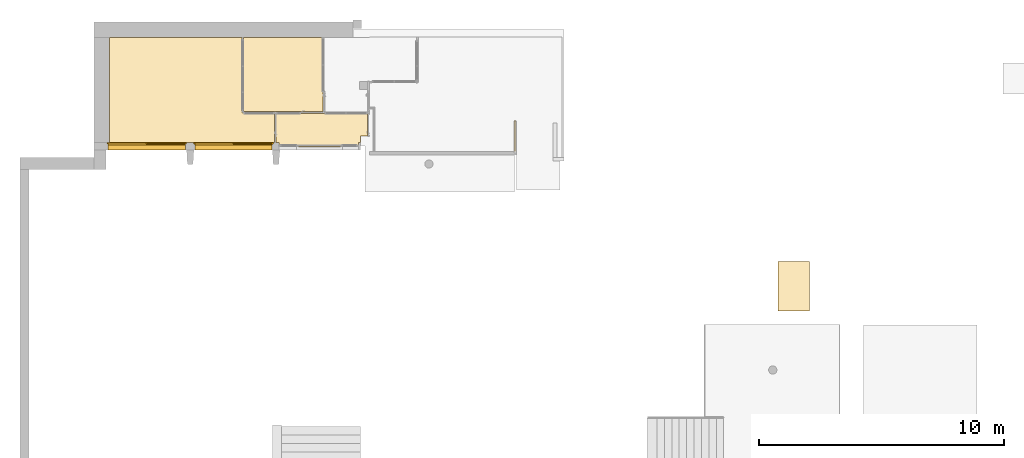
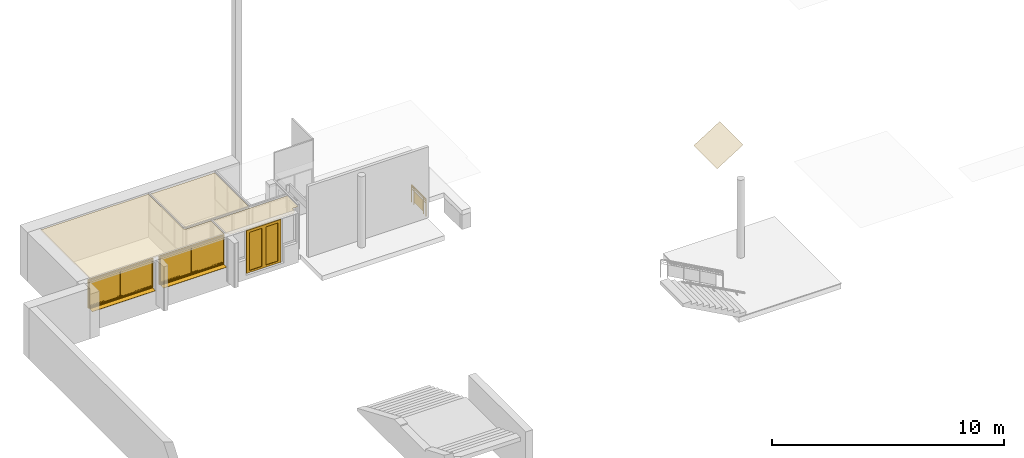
# One storey, part 16 of 19: 4 coverings, 2 windows, 1 door, 1 railing, 1 element without a shape of its own.
"""IFC4 building model written with IfcOpenShell, lengths in metres."""

from ifc_helpers import new_model, entity, si_unit, converted_unit, derived_unit, direction, frame, origin, place, context, subcontext, project, spatial, indexed_curve, outline, extrude, polygons, source, transform, mapped, material, material_list, layer, layer_set, constituent, constituent_set, type_object, type_shapes, element, aggregate, save


model = new_model("IFC4")

# Units and contexts
model_context = context("Model", 3, precision=1e-05, world=origin(), true_north=direction((6.12303176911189e-17, 1.0)))
body_context = subcontext(model_context, "Body", "Model", "MODEL_VIEW")
ifc_project = project(units=[si_unit("LENGTHUNIT", "METRE"), si_unit("AREAUNIT", "SQUARE_METRE"), si_unit("VOLUMEUNIT", "CUBIC_METRE"), converted_unit("PLANEANGLEUNIT", "DEGREE", entity("IfcRatioMeasure", 0.0174532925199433), si_unit("PLANEANGLEUNIT", "RADIAN"), dimensions=[0, 0, 0, 0, 0, 0, 0]), si_unit("MASSUNIT", "GRAM", prefix="KILO"), derived_unit("MASSDENSITYUNIT", [(si_unit("MASSUNIT", "GRAM", prefix="KILO"), 1), (si_unit("LENGTHUNIT", "METRE"), -3)]), derived_unit("MOMENTOFINERTIAUNIT", [(si_unit("LENGTHUNIT", "METRE"), 4)]), si_unit("TIMEUNIT", "SECOND"), si_unit("FREQUENCYUNIT", "HERTZ"), si_unit("THERMODYNAMICTEMPERATUREUNIT", "DEGREE_CELSIUS"), derived_unit("THERMALTRANSMITTANCEUNIT", [(si_unit("MASSUNIT", "GRAM", prefix="KILO"), 1), (si_unit("THERMODYNAMICTEMPERATUREUNIT", "KELVIN"), -1), (si_unit("TIMEUNIT", "SECOND"), -3)]), derived_unit("VOLUMETRICFLOWRATEUNIT", [(si_unit("LENGTHUNIT", "METRE"), 3), (si_unit("TIMEUNIT", "SECOND"), -1)]), si_unit("ELECTRICCURRENTUNIT", "AMPERE"), si_unit("ELECTRICVOLTAGEUNIT", "VOLT"), si_unit("POWERUNIT", "WATT"), si_unit("FORCEUNIT", "NEWTON", prefix="KILO"), si_unit("ILLUMINANCEUNIT", "LUX"), si_unit("LUMINOUSFLUXUNIT", "LUMEN"), si_unit("LUMINOUSINTENSITYUNIT", "CANDELA"), derived_unit("USERDEFINED", [(si_unit("MASSUNIT", "GRAM", prefix="KILO"), -1), (si_unit("LENGTHUNIT", "METRE"), -2), (si_unit("TIMEUNIT", "SECOND"), 3), (si_unit("LUMINOUSFLUXUNIT", "LUMEN"), 1)]), derived_unit("LINEARVELOCITYUNIT", [(si_unit("LENGTHUNIT", "METRE"), 1), (si_unit("TIMEUNIT", "SECOND"), -1)]), si_unit("PRESSUREUNIT", "PASCAL"), derived_unit("USERDEFINED", [(si_unit("LENGTHUNIT", "METRE"), -2), (si_unit("MASSUNIT", "GRAM", prefix="KILO"), 1), (si_unit("TIMEUNIT", "SECOND"), -2)]), derived_unit("LINEARFORCEUNIT", [(si_unit("MASSUNIT", "GRAM", prefix="KILO"), 1), (si_unit("LENGTHUNIT", "METRE"), 1), (si_unit("TIMEUNIT", "SECOND"), -2), (si_unit("LENGTHUNIT", "METRE"), -1)]), derived_unit("PLANARFORCEUNIT", [(si_unit("MASSUNIT", "GRAM", prefix="KILO"), 1), (si_unit("LENGTHUNIT", "METRE"), 1), (si_unit("TIMEUNIT", "SECOND"), -2), (si_unit("LENGTHUNIT", "METRE"), -2)])], contexts=[model_context])

# Site, building, storey
site_placement = place(None, origin())
site = spatial("IfcSite", under=ifc_project, at=site_placement, Name="Default", CompositionType="ELEMENT")
building_placement = place(site_placement, origin())
building = spatial("IfcBuilding", under=site, at=building_placement, Name="HOTEL CONSULAIRE BOULOGNE SUR MER", CompositionType="ELEMENT")
storey_placement = place(building_placement, frame((0.0, 0.0, -4.01003075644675)))
storey = spatial("IfcBuildingStorey", under=building, at=storey_placement, Name="SS2", CompositionType="ELEMENT", Elevation=-4.01003075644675)

# Curtain wall, door
curtain_wall_type = type_object("IfcCurtainWallType", Name="Mur-rideau:Simple panneau", PredefinedType="NOTDEFINED")
curtain_wall_placement = place(storey_placement, frame((0.0, 0.0, 4.01003075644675)))
curtain_wall = element("IfcCurtainWall", 1, at=curtain_wall_placement, inside=storey, type_object=curtain_wall_type, Name="Mur-rideau:Simple panneau", ObjectType="Mur-rideau:Simple panneau", PredefinedType="NOTDEFINED")
ifc_material_1 = material(Name="PVC, souple", Category="Plastique")
ifc_constituent_1 = constituent(ifc_material_1, Name="PVC, souple", Category="Matériaux")
ifc_material_2 = material(Name="Verre", Category="Verre")
ifc_constituent_2 = constituent(ifc_material_2, Name="Verre", Category="Matériaux")
ifc_constituent_set_1 = constituent_set(constituents=[ifc_constituent_1, ifc_constituent_2], Name="MaterialConstituentSet")
ifc_material_list_1 = material_list([ifc_material_1, ifc_material_1, ifc_material_1])
door_type = type_object("IfcDoorType", Name="Double vitrée1:Double vitrée1", OperationType="SWING_FIXED_RIGHT", PredefinedType="DOOR", material=ifc_material_list_1)
shared_shape_1 = source(origin(), body_context, "Body", "SweptSolid", [
    extrude(outline(indexed_curve([(0.80499682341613, -1.1175), (0.85499682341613, -1.1175), (0.854996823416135, 1.1425), (-0.85499682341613, 1.1425), (-0.854996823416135, -1.1175), (-0.804996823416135, -1.1175), (-0.80499682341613, 1.0925), (0.804996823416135, 1.0925), (0.80499682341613, -1.1175)], self_intersect=False)), frame((0.0, -0.0449999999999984, 1.1175), z_axis=(0.0, 1.0, 0.0), x_axis=(-1.0, 0.0, 0.0)), (0.0, 0.0, 1.0), 0.0699999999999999),
    extrude(outline(indexed_curve([(-0.302498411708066, -0.005), (0.302498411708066, -0.005), (0.302498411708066, 0.005), (-0.302498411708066, 0.005), (-0.302498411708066, -0.005)], self_intersect=False)), frame((0.402498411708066, -0.00999999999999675, 0.1), z_axis=(0.0, 0.0, 1.0), x_axis=(-1.0, 0.0, 0.0)), (0.0, 0.0, 1.0), 2.01),
    extrude(outline(indexed_curve([(-0.402498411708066, -1.105), (0.402498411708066, -1.105), (0.402498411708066, 1.105), (-0.402498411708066, 1.105), (-0.402498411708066, -1.105)], self_intersect=False), holes=[indexed_curve([(-0.302498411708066, 1.005), (0.302498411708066, 1.005), (0.302498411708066, -1.005), (-0.302498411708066, -1.005), (-0.302498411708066, 1.005)], self_intersect=False)]), frame((0.402498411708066, -0.0349999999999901, 1.105), z_axis=(0.0, 1.0, 0.0), x_axis=(-1.0, 0.0, 0.0)), (0.0, 0.0, 1.0), 0.05),
    extrude(outline(indexed_curve([(-0.302498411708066, -0.005), (0.302498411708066, -0.005), (0.302498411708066, 0.005), (-0.302498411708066, 0.005), (-0.302498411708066, -0.005)], self_intersect=False)), frame((-0.402498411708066, -0.00999999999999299, 0.1), z_axis=(0.0, 0.0, 1.0), x_axis=(-1.0, 0.0, 0.0)), (0.0, 0.0, 1.0), 2.01),
    extrude(outline(indexed_curve([(-1.105, -0.402498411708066), (1.105, -0.402498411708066), (1.105, 0.402498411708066), (-1.105, 0.402498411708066), (-1.105, -0.402498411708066)], self_intersect=False), holes=[indexed_curve([(-1.005, -0.302498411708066), (-1.005, 0.302498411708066), (1.005, 0.302498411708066), (1.005, -0.302498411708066), (-1.005, -0.302498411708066)], self_intersect=False)]), frame((-0.402498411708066, -0.0349999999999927, 1.105), z_axis=(0.0, 1.0, 0.0), x_axis=(0.0, 0.0, -1.0)), (0.0, 0.0, 1.0), 0.05),
])
type_shapes(door_type, [shared_shape_1])
door_placement = place(curtain_wall_placement, frame((-15.5093465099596, -14.8875756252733, -4.03003075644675)))
door = element("IfcDoor", 2, at=door_placement, type_object=door_type, material=ifc_constituent_set_1, Name="Double vitrée1:Double vitrée1", ObjectType="Double vitrée1:Double vitrée1", OperationType="SWING_FIXED_RIGHT", OverallHeight=2.26, OverallWidth=1.70999364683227, PredefinedType="DOOR", context=body_context, shape_type="MappedRepresentation", body=[
    mapped(shared_shape_1, transform((0.0, 0.0, 0.0), scale=1.0)),
])
aggregate(curtain_wall, [door])

# Windows
ifc_constituent_3 = constituent(ifc_material_1, Name="PVC, souple", Category="Matériaux")
ifc_material_3 = material(Name="Fenêtre - Vitrage", Category="Verre")
ifc_constituent_4 = constituent(ifc_material_3, Name="Fenêtre - Vitrage", Category="Matériaux")
ifc_constituent_set_2 = constituent_set(constituents=[ifc_constituent_3, ifc_constituent_4], Name="MaterialConstituentSet")
ifc_material_list_2 = material_list([ifc_material_1, ifc_material_1, ifc_material_1, ifc_material_1, ifc_material_3])
window_type = type_object("IfcWindowType", Name="2 Vantaux coulissants - Droits:1.45x3.15 pvc", PartitioningType="NOTDEFINED", PredefinedType="WINDOW", material=ifc_material_list_2)
shared_shape_2 = source(origin(), body_context, "Body", "Tessellation", [
    polygons([(0.0900000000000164, 0.362468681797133, 0.624909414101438), (0.0875313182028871, 0.360000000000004, 0.624909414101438), (0.0709522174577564, 0.360000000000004, 0.624909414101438), (0.0709522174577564, 0.365000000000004, 0.624909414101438), (0.0800000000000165, 0.365000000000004, 0.624909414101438), (0.0800000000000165, 0.380000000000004, 0.624909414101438), (0.0900000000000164, 0.380000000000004, 0.624909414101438), (0.0900000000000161, 0.362468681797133, 0.724909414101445), (0.0900000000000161, 0.380000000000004, 0.724909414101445), (0.0800000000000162, 0.380000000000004, 0.724909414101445), (0.0800000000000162, 0.365000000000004, 0.724909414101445), (0.0709522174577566, 0.365000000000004, 0.724909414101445), (0.0709522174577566, 0.360000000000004, 0.724909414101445), (0.0875313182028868, 0.360000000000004, 0.724909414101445), (0.0667433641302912, 0.365000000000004, 0.626652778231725), (0.0650000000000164, 0.365000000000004, 0.630861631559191), (0.0650000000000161, 0.365000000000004, 0.718957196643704), (0.0667433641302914, 0.365000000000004, 0.723166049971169), (0.0650000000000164, 0.360000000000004, 0.630861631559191), (0.0650000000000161, 0.360000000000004, 0.718957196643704), (0.0667433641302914, 0.360000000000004, 0.723166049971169), (0.0667433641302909, 0.360000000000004, 0.626652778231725)], [[[2, 3, 4, 5, 6, 7, 1]], [[10, 11, 12, 13, 14, 8, 9]], [[8, 1, 7, 9]], [[9, 7, 6, 10]], [[16, 17, 18, 12, 11, 5, 4, 15]], [[10, 6, 5, 11]], [[20, 17, 16, 19]], [[3, 2, 14, 13, 21, 20, 19, 22]], [[14, 2, 1, 8]], [[12, 18, 21, 13]], [[17, 20, 21, 18]], [[16, 15, 22, 19]], [[4, 3, 22, 15]]], closed=True),
    polygons([(3.16000000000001, 0.33246868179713, 0.624909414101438), (3.16000000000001, 0.350000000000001, 0.624909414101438), (3.17000000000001, 0.350000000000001, 0.624909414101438), (3.17000000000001, 0.335000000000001, 0.624909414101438), (3.17904778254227, 0.335000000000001, 0.624909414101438), (3.17904778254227, 0.330000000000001, 0.624909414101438), (3.16246868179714, 0.330000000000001, 0.624909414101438), (3.16000000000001, 0.33246868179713, 0.724909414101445), (3.16246868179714, 0.330000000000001, 0.724909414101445), (3.17904778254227, 0.330000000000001, 0.724909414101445), (3.17904778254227, 0.335000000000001, 0.724909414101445), (3.17000000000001, 0.335000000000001, 0.724909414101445), (3.17000000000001, 0.350000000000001, 0.724909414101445), (3.16000000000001, 0.350000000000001, 0.724909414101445), (3.18325663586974, 0.335000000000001, 0.723166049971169), (3.18500000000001, 0.335000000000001, 0.718957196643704), (3.18500000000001, 0.335000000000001, 0.630861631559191), (3.18325663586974, 0.335000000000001, 0.626652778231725), (3.18500000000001, 0.330000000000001, 0.718957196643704), (3.18500000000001, 0.330000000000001, 0.630861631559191), (3.18325663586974, 0.330000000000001, 0.626652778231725), (3.18325663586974, 0.330000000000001, 0.723166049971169)], [[[4, 5, 6, 7, 1, 2, 3]], [[14, 8, 9, 10, 11, 12, 13]], [[2, 1, 8, 14]], [[3, 2, 14, 13]], [[5, 4, 12, 11, 15, 16, 17, 18]], [[4, 3, 13, 12]], [[20, 17, 16, 19]], [[21, 20, 19, 22, 10, 9, 7, 6]], [[1, 7, 9, 8]], [[10, 22, 15, 11]], [[15, 22, 19, 16]], [[20, 21, 18, 17]], [[18, 21, 6, 5]]], closed=True),
    polygons([(3.20000000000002, 0.664999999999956, 0.0404651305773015), (3.20000000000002, 0.435000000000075, 0.0646391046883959), (3.20000000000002, 0.435000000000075, 0.0749094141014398), (3.20000000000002, 0.430000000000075, 0.0749094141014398), (3.20000000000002, 0.430000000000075, 0.0599094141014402), (3.20000000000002, 0.659999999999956, 0.0357354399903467), (3.20000000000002, 0.659999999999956, 0.0254349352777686), (3.20000000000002, 0.664999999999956, 0.0249094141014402), (0.0500000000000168, 0.664999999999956, 0.0404651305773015), (0.0500000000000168, 0.664999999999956, 0.0249094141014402), (0.0500000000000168, 0.659999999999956, 0.0254349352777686), (0.0500000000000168, 0.659999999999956, 0.0357354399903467), (0.0500000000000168, 0.430000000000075, 0.0599094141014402), (0.0500000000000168, 0.430000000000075, 0.0749094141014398), (0.0500000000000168, 0.435000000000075, 0.0749094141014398), (0.0500000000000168, 0.435000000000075, 0.0646391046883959)], [[[1, 2, 3, 4, 5, 6, 7, 8]], [[14, 15, 16, 9, 10, 11, 12, 13]], [[2, 1, 9, 16]], [[3, 2, 16, 15]], [[1, 8, 10, 9]], [[4, 3, 15, 14]], [[5, 4, 14, 13]], [[7, 6, 12, 11]], [[6, 5, 13, 12]], [[8, 7, 11, 10]]], closed=True),
    polygons([(0.0500000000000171, 0.664999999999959, 0.0404651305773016), (0.0500000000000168, 0.435000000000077, 0.0646391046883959), (0.0500000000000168, 0.435000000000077, 0.0696666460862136), (0.0500000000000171, 0.661418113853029, 0.0458691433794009), (0.0500000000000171, 0.663972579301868, 0.0445675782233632), (0.0500000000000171, 0.664999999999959, 0.0418910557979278), (0.055000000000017, 0.664999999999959, 0.0404651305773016), (0.055000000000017, 0.664999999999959, 0.0418910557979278), (0.055000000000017, 0.663972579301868, 0.0445675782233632), (0.055000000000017, 0.661418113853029, 0.0458691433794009), (0.0550000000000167, 0.435000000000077, 0.0696666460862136), (0.0550000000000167, 0.435000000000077, 0.0646391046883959)], [[[6, 1, 2, 3, 4, 5]], [[11, 12, 7, 8, 9, 10]], [[2, 1, 7, 12]], [[3, 2, 12, 11]], [[4, 3, 11, 10]], [[4, 10, 9, 5]], [[9, 8, 6, 5]], [[1, 6, 8, 7]]], closed=True),
    polygons([(3.19500000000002, 0.664999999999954, 0.0404651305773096), (3.19500000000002, 0.435000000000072, 0.0646391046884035), (3.19500000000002, 0.435000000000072, 0.069666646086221), (3.19500000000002, 0.661418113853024, 0.0458691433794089), (3.19500000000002, 0.663972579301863, 0.0445675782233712), (3.19500000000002, 0.664999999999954, 0.0418910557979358), (3.20000000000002, 0.664999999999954, 0.0404651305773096), (3.20000000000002, 0.664999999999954, 0.0418910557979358), (3.20000000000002, 0.663972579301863, 0.0445675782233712), (3.20000000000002, 0.661418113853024, 0.0458691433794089), (3.20000000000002, 0.435000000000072, 0.069666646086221), (3.20000000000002, 0.435000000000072, 0.0646391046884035)], [[[6, 1, 2, 3, 4, 5]], [[11, 12, 7, 8, 9, 10]], [[2, 1, 7, 12]], [[3, 2, 12, 11]], [[4, 3, 11, 10]], [[4, 10, 9, 5]], [[9, 8, 6, 5]], [[1, 6, 8, 7]]], closed=True),
    polygons([(1.60000000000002, 0.400999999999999, 1.47490941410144), (1.60000000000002, 0.400999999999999, 0.174909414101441), (0.100000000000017, 0.401000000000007, 0.174909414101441), (0.100000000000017, 0.401000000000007, 1.47490941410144), (1.60000000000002, 0.388999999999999, 1.47490941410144), (1.60000000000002, 0.388999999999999, 0.174909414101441), (0.100000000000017, 0.389000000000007, 0.174909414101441), (0.100000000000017, 0.389000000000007, 1.47490941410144)], [[[4, 1, 2, 3]], [[2, 1, 5, 6]], [[3, 2, 6, 7]], [[4, 3, 7, 8]], [[7, 6, 5, 8]], [[1, 4, 8, 5]]], closed=True),
    polygons([(1.65000000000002, 0.409999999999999, 1.52490941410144), (1.65000000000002, 0.380000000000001, 1.52490941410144), (1.65000000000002, 0.380000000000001, 0.12490941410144), (1.65000000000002, 0.409999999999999, 0.12490941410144), (0.0500000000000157, 0.380000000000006, 0.12490941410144), (0.0500000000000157, 0.410000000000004, 0.12490941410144), (0.050000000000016, 0.380000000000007, 1.52490941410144), (0.100000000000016, 0.380000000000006, 0.174909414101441), (0.100000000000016, 0.380000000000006, 1.47490941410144), (1.60000000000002, 0.380000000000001, 1.47490941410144), (1.60000000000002, 0.380000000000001, 0.174909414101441), (0.050000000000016, 0.410000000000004, 1.52490941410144), (1.60000000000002, 0.409999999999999, 0.17490941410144), (1.60000000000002, 0.409999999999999, 1.47490941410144), (0.100000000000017, 0.410000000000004, 1.47490941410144), (0.100000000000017, 0.410000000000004, 0.174909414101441)], [[[1, 2, 3, 4]], [[8, 16, 15, 9]], [[4, 3, 5, 6]], [[9, 15, 14, 10]], [[7, 5, 3, 2], [10, 11, 8, 9]], [[6, 5, 7, 12]], [[10, 14, 13, 11]], [[1, 4, 6, 12], [15, 16, 13, 14]], [[11, 13, 16, 8]], [[12, 7, 2, 1]]], closed=True),
    polygons([(1.65000000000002, 0.371000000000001, 0.17490941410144), (1.65000000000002, 0.371000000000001, 1.47490941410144), (3.15000000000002, 0.370999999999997, 1.47490941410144), (3.15000000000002, 0.370999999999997, 0.17490941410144), (1.65000000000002, 0.359000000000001, 0.17490941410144), (1.65000000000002, 0.359000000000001, 1.47490941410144), (3.15000000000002, 0.358999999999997, 1.47490941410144), (3.15000000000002, 0.358999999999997, 0.17490941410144)], [[[4, 1, 2, 3]], [[2, 1, 5, 6]], [[4, 3, 7, 8]], [[1, 4, 8, 5]], [[7, 6, 5, 8]], [[3, 2, 6, 7]]], closed=True),
    polygons([(1.65000000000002, 0.380000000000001, 1.47490941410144), (1.65000000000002, 0.350000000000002, 1.47490941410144), (1.65000000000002, 0.350000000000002, 0.17490941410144), (1.65000000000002, 0.380000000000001, 0.17490941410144), (3.15000000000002, 0.349999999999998, 0.17490941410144), (3.15000000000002, 0.379999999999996, 0.17490941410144), (3.20000000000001, 0.349999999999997, 0.12490941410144), (3.20000000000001, 0.349999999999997, 1.52490941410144), (1.60000000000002, 0.350000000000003, 1.52490941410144), (1.60000000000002, 0.350000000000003, 0.12490941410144), (3.15000000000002, 0.349999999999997, 1.47490941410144), (3.15000000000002, 0.379999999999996, 1.47490941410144), (1.60000000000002, 0.380000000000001, 0.12490941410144), (1.60000000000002, 0.380000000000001, 1.52490941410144), (3.20000000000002, 0.379999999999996, 1.52490941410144), (3.20000000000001, 0.379999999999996, 0.12490941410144)], [[[1, 2, 3, 4]], [[7, 16, 15, 8]], [[4, 3, 5, 6]], [[8, 15, 14, 9]], [[9, 10, 7, 8], [11, 5, 3, 2]], [[6, 5, 11, 12]], [[9, 14, 13, 10]], [[15, 16, 13, 14], [1, 4, 6, 12]], [[10, 13, 16, 7]], [[12, 11, 2, 1]]], closed=True),
    polygons([(0.0, 0.350000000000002, 0.0749094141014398), (0.0, 0.420000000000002, 0.0749094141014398), (0.0500000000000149, 0.420000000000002, 0.0749094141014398), (0.0500000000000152, 0.449999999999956, 0.0749094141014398), (3.20000000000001, 0.449999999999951, 0.0749094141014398), (3.20000000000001, 0.420000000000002, 0.0749094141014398), (3.25000000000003, 0.420000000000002, 0.0749094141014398), (3.25000000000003, 0.350000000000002, 0.0749094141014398), (0.0, 0.350000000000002, 1.57490941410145), (0.0, 0.420000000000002, 1.57490941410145), (3.25000000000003, 0.420000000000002, 1.57490941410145), (3.20000000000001, 0.420000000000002, 0.114285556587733), (0.0500000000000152, 0.420000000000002, 0.114285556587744), (0.0650000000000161, 0.420000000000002, 1.50990941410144), (0.0650000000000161, 0.420000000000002, 0.139909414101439), (3.18500000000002, 0.420000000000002, 0.139909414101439), (3.18500000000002, 0.420000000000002, 1.50990941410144), (0.0500000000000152, 0.459999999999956, 0.103567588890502), (0.0500000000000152, 0.459999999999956, 0.0699094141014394), (0.0500000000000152, 0.449999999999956, 0.0699094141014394), (3.20000000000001, 0.449999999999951, 0.0699094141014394), (3.20000000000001, 0.459999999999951, 0.0699094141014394), (3.20000000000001, 0.459999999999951, 0.103567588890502), (3.25000000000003, 0.350000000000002, 1.57490941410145), (3.20000000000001, 0.350000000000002, 1.52490941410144), (3.20000000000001, 0.350000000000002, 0.12490941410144), (0.0500000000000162, 0.350000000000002, 0.12490941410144), (0.0500000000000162, 0.350000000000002, 1.52490941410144), (0.0650000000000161, 0.410000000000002, 1.50990941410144), (0.0650000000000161, 0.410000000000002, 0.139909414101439), (3.18500000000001, 0.410000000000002, 0.139909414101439), (3.18500000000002, 0.410000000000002, 1.50990941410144), (3.20000000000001, 0.410000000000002, 1.52490941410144), (0.0500000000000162, 0.410000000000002, 1.52490941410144), (0.0500000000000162, 0.410000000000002, 0.12490941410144), (3.20000000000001, 0.410000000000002, 0.12490941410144)], [[[4, 5, 6, 7, 8, 1, 2, 3]], [[20, 19, 22, 21]], [[29, 14, 17, 32]], [[28, 34, 33, 25]], [[2, 1, 9, 10]], [[18, 19, 20, 4, 3, 13]], [[32, 17, 16, 31]], [[25, 33, 36, 26]], [[2, 10, 11, 7, 6, 12, 13, 3], [15, 16, 17, 14]], [[19, 18, 23, 22]], [[4, 20, 21, 5]], [[8, 24, 9, 1], [27, 28, 25, 26]], [[36, 33, 34, 35], [30, 29, 32, 31]], [[12, 6, 5, 21, 22, 23]], [[11, 24, 8, 7]], [[30, 15, 14, 29]], [[27, 35, 34, 28]], [[15, 30, 31, 16]], [[35, 27, 26, 36]], [[10, 9, 24, 11]], [[18, 13, 12, 23]]], closed=True),
    polygons([(0.0500000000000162, 0.449999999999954, 0.0749094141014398), (0.0500000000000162, 0.420000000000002, 0.0749094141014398), (0.0400000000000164, 0.420000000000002, 0.0749094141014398), (0.0400000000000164, 0.449999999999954, 0.0749094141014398), (0.0500000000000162, 0.449999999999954, 1.52490941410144), (0.0500000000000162, 0.420000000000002, 1.52490941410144), (3.20000000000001, 0.420000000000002, 1.52490941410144), (3.20000000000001, 0.420000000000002, 0.0749094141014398), (3.21000000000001, 0.420000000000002, 0.0749094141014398), (3.21000000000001, 0.420000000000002, 1.53490941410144), (0.0400000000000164, 0.420000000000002, 1.53490941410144), (0.0400000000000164, 0.449999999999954, 1.53490941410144), (3.21000000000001, 0.449999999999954, 1.53490941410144), (3.21000000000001, 0.449999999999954, 0.0749094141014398), (3.20000000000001, 0.449999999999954, 0.0749094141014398), (3.20000000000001, 0.449999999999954, 1.52490941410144)], [[[3, 4, 1, 2]], [[15, 14, 9, 8]], [[6, 5, 16, 7]], [[2, 1, 5, 6]], [[13, 10, 9, 14]], [[8, 9, 10, 11, 3, 2, 6, 7]], [[4, 3, 11, 12]], [[7, 16, 15, 8]], [[1, 4, 12, 13, 14, 15, 16, 5]], [[12, 11, 10, 13]]], closed=True),
])
type_shapes(window_type, [shared_shape_2])
window_1_placement = place(storey_placement, frame((-20.9278530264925, -14.3875756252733, 0.725090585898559), z_axis=(0.0, 0.0, 1.0), x_axis=(-1.0, 0.0, 0.0)))
element("IfcWindow", 3, at=window_1_placement, inside=storey, type_object=window_type, material=ifc_constituent_set_2, Name="2 Vantaux coulissants - Droits:1.45x3.15 pvc", ObjectType="2 Vantaux coulissants - Droits:1.45x3.15 pvc", OverallHeight=1.58000000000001, OverallWidth=3.25000000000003, PartitioningType="NOTDEFINED", PredefinedType="WINDOW", context=body_context, shape_type="MappedRepresentation", body=[
    mapped(shared_shape_2, transform((0.0, 0.0, 0.0), scale=1.0)),
])
ifc_constituent_5 = constituent(ifc_material_1, Name="PVC, souple", Category="Matériaux")
ifc_constituent_6 = constituent(ifc_material_3, Name="Fenêtre - Vitrage", Category="Matériaux")
ifc_constituent_set_3 = constituent_set(constituents=[ifc_constituent_5, ifc_constituent_6], Name="MaterialConstituentSet")
window_2_placement = place(storey_placement, frame((-17.3883668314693, -14.3875756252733, 0.725090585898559), z_axis=(0.0, 0.0, 1.0), x_axis=(-1.0, 0.0, 0.0)))
element("IfcWindow", 4, at=window_2_placement, inside=storey, type_object=window_type, material=ifc_constituent_set_3, Name="2 Vantaux coulissants - Droits:1.45x3.15 pvc", ObjectType="2 Vantaux coulissants - Droits:1.45x3.15 pvc", OverallHeight=1.58000000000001, OverallWidth=3.25000000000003, PartitioningType="NOTDEFINED", PredefinedType="WINDOW", context=body_context, shape_type="MappedRepresentation", body=[
    mapped(shared_shape_2, transform((0.0, 0.0, 0.0), scale=1.0)),
])

# Coverings
ifc_material_4 = material(Name="Faux-plafond - Trame 600 x 600", Category="Divers")
ifc_layer = layer(ifc_material_4, 0.0, Name="Faux-plafond - Trame 600 x 600", Category="Divers")
ifc_layer_set = layer_set([ifc_layer], Name="Plafond de base:Plafond 600 mm x 1200 mm")
covering_type_1 = type_object("IfcCoveringType", Name="Plafond de base:Plafond 600 mm x 1200 mm", PredefinedType="CEILING")
covering_1_placement = place(storey_placement, frame((-24.0622313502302, -14.7375756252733, 2.262)))
element("IfcCovering", 5, at=covering_1_placement, inside=storey, type_object=covering_type_1, material=ifc_layer_set, Name="Plafond de base:Plafond 600 mm x 1200 mm", ObjectType="Plafond de base:Plafond 600 mm x 1200 mm", PredefinedType="CEILING", context=body_context, shape_type="Tessellation", body=[
    polygons([(8.66293703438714e-15, 4.27125145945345, 0.0), (0.0, 0.0, 0.0), (6.71545258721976, 0.0, 0.0), (6.71545258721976, 1.18825145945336, 0.0), (5.48245258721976, 1.18825145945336, 0.0), (5.45812359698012, 1.19145443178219, 0.0), (5.43545258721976, 1.20084507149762, 0.0), (5.41598454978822, 1.21578342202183, 0.0), (5.40104619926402, 1.23525145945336, 0.0), (5.39165555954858, 1.25792246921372, 0.0), (5.38845258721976, 1.28225145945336, 0.0), (5.38845258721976, 4.27125145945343, 0.0)], [[[2, 3, 4, 5, 6, 7, 8, 9, 10, 11, 12, 1]]], closed=True),
])
covering_type_2 = type_object("IfcCoveringType", Name="Plafond de base:Plafond 600 mm x 1200 mm", PredefinedType="CEILING")
covering_2_placement = place(storey_placement, frame((-17.2767787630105, -14.8375756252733, 2.25)))
element("IfcCovering", 6, at=covering_2_placement, inside=storey, type_object=covering_type_2, material=ifc_layer_set, Name="Plafond de base:Plafond 600 mm x 1200 mm", ObjectType="Plafond de base:Plafond 600 mm x 1200 mm", PredefinedType="CEILING", context=body_context, shape_type="Tessellation", body=[
    polygons([(3.358, 0.0999999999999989, 0.0), (3.43142907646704, 0.0999999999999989, 0.0), (3.43142907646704, 0.354251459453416, 0.0), (3.73142907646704, 0.354251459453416, 0.0), (3.73142907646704, 1.28825145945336, 0.0), (4.33146851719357e-15, 1.28825145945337, 0.0), (2.16573425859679e-15, 0.10000000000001, 0.0), (0.112000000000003, 0.10000000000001, 0.0), (0.112000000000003, 8.66293703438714e-15, 0.0), (3.358, 0.0, 0.0)], [[[3, 4, 5, 6, 7, 8, 9, 10, 1, 2]]], closed=True),
])
covering_type_3 = type_object("IfcCoveringType", Name="Plafond de base:Plafond 600 mm x 1200 mm", PredefinedType="CEILING")
covering_3_placement = place(storey_placement, frame((-18.6053740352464, -13.4809194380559, 2.224)))
element("IfcCovering", 7, at=covering_3_placement, inside=storey, type_object=covering_type_3, material=ifc_layer_set, Name="Plafond de base:Plafond 600 mm x 1200 mm", ObjectType="Plafond de base:Plafond 600 mm x 1200 mm", PredefinedType="CEILING", context=body_context, shape_type="Tessellation", body=[
    polygons([(0.0255952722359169, 0.0015952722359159, 0.0), (3.23317965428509, 0.00159527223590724, 0.0), (3.23317965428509, 3.01459527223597, 0.0), (0.00159527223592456, 3.01459527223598, 0.0), (0.0015952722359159, 0.0255952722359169, 0.0), (0.00241305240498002, 0.0193836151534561, 0.0), (0.00481066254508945, 0.0135952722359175, 0.0), (0.00862470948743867, 0.00862470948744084, 0.0), (0.0135952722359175, 0.00481066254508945, 0.0), (0.0193836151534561, 0.00241305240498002, 0.0)], [[[7, 8, 9, 10, 1, 2, 3, 4, 5, 6]]], closed=True),
])
covering_type_4 = type_object("IfcCoveringType", Name="Plafond de base:Plafond 600 mm x 1200 mm", PredefinedType="CEILING")
covering_4_placement = place(storey_placement, frame((3.18784106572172, -21.6103777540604, 2.69341963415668)))
element("IfcCovering", 8, at=covering_4_placement, inside=storey, type_object=covering_type_4, material=ifc_layer_set, Name="Plafond de base:Plafond 600 mm x 1200 mm", ObjectType="Plafond de base:Plafond 600 mm x 1200 mm", PredefinedType="CEILING", context=body_context, shape_type="Tessellation", body=[
    polygons([(0.0, 4.33146851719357e-15, 2.70716782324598e-15), (1.28993252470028, 0.0, 0.808000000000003), (1.28993252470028, 2.01905368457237, 0.808), (2.70716782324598e-15, 2.01905368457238, 0.0)], [[[4, 1, 2, 3]]], closed=True),
])

# Railing
ifc_material_5 = material(Name="Métal - Acier inoxydable, poli", Category="Métal")
ifc_constituent_7 = constituent(ifc_material_5, Name="Métal - Acier inoxydable, poli", Category="Matériaux")
ifc_constituent_8 = constituent(ifc_material_2, Name="Verre", Category="Matériaux")
ifc_constituent_set_4 = constituent_set(constituents=[ifc_constituent_7, ifc_constituent_8], Name="MaterialConstituentSet")
railing_placement = place(storey_placement, frame((-7.57997460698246, -15.1005756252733, 0.0)))
element("IfcRailing", 9, at=railing_placement, inside=storey, material=ifc_constituent_set_4, Name="Garde-corps:Remplissage Inférieur", ObjectType="Garde-corps:Remplissage Inférieur", PredefinedType="NOTDEFINED", context=body_context, shape_type="SweptSolid", body=[
    extrude(outline(indexed_curve([(-0.0250000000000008, -0.0060000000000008), (0.0249999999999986, -0.0060000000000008), (0.0249999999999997, 0.00599999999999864), (-0.0250000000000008, 0.00599999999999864), (-0.0250000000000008, -0.0060000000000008)], self_intersect=False)), frame((0.0409860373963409, 1.025, 0.0)), (0.0, 0.0, 1.0), 0.869846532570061),
    extrude(outline(indexed_curve([(-0.00250000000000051, -0.399999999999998), (0.00249999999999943, -0.399999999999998), (0.0025000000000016, 0.4), (-0.00249999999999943, 0.4), (-0.00250000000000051, -0.399999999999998)], self_intersect=False)), frame((0.0452108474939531, 0.624999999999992, 0.100000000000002)), (0.0, 0.0, 1.0), 0.6),
    extrude(outline(indexed_curve([(-0.0249999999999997, -0.0060000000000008), (0.0249999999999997, -0.0060000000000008), (0.0250000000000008, 0.00599999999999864), (-0.0249999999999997, 0.00599999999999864), (-0.0249999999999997, -0.0060000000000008)], self_intersect=False)), frame((0.0409860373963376, 0.225000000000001, 0.0)), (0.0, 0.0, 1.0), 0.869846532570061),
    extrude(outline(indexed_curve([(-0.0250000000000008, -0.00599999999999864), (0.0249999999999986, -0.00599999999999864), (0.0249999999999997, 0.0060000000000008), (-0.0250000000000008, 0.0060000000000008), (-0.0250000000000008, -0.00599999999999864)], self_intersect=False)), frame((0.0409860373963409, 1.244, 0.0)), (0.0, 0.0, 1.0), 0.869846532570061),
    extrude(outline(indexed_curve([(-0.0249999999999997, -0.0060000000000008), (0.0249999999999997, -0.0060000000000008), (0.0250000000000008, 0.00599999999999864), (-0.0249999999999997, 0.00599999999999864), (-0.0249999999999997, -0.0060000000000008)], self_intersect=False)), frame((0.0409860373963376, 0.0060000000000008, 0.0)), (0.0, 0.0, 1.0), 0.869846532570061),
    extrude(outline(indexed_curve([(-0.621, -0.00999999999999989), (0.621, -0.00999999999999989), (0.621, 0.00999999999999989), (-0.621, 0.00999999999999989), (-0.621, -0.00999999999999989)], self_intersect=False)), frame((0.0409860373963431, 0.624999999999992, 0.780000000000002), z_axis=(0.0, 0.0, 1.0), x_axis=(0.0, 1.0, 0.0)), (0.0, 0.0, 1.0), 0.0199999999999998),
    extrude(outline(indexed_curve([(-0.621, -0.00999999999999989), (0.621, -0.00999999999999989), (0.621, 0.00999999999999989), (-0.621, 0.00999999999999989), (-0.621, -0.00999999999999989)], self_intersect=False)), frame((0.0409860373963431, 0.624999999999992, 0.680000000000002), z_axis=(0.0, 0.0, 1.0), x_axis=(0.0, 1.0, 0.0)), (0.0, 0.0, 1.0), 0.0199999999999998),
    extrude(outline(indexed_curve([(-0.0116456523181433, -0.0382672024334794), (0.00196026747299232, -0.0382672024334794), (0.0151779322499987, -0.03068791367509), (0.0253894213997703, -0.0170305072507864), (0.0287004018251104, -0.0087342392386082), (0.0309110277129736, 0.00873423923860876), (0.0269993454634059, 0.0244727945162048), (0.0177401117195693, 0.0353642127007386), (0.0116456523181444, 0.038267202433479), (-0.00196026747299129, 0.038267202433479), (-0.0151779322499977, 0.0306879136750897), (-0.0253894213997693, 0.0170305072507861), (-0.0287004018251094, 0.00873423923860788), (-0.0309110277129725, -0.00873423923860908), (-0.0269993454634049, -0.0244727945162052), (-0.0177401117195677, -0.035364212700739), (-0.0116456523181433, -0.0382672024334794)], self_intersect=False)), frame((0.0415952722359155, 0.00399999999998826, 0.900000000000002), z_axis=(0.0, 1.0, 0.0), x_axis=(0.291141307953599, 0.0, 0.95668006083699)), (0.0, 0.0, 1.0), 1.242),
])

save(model, "model.ifc")
